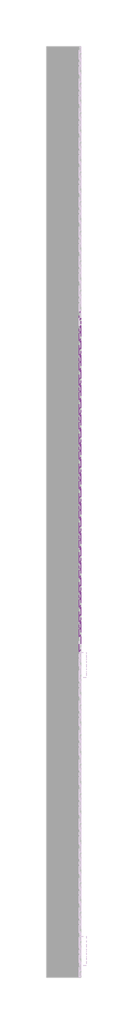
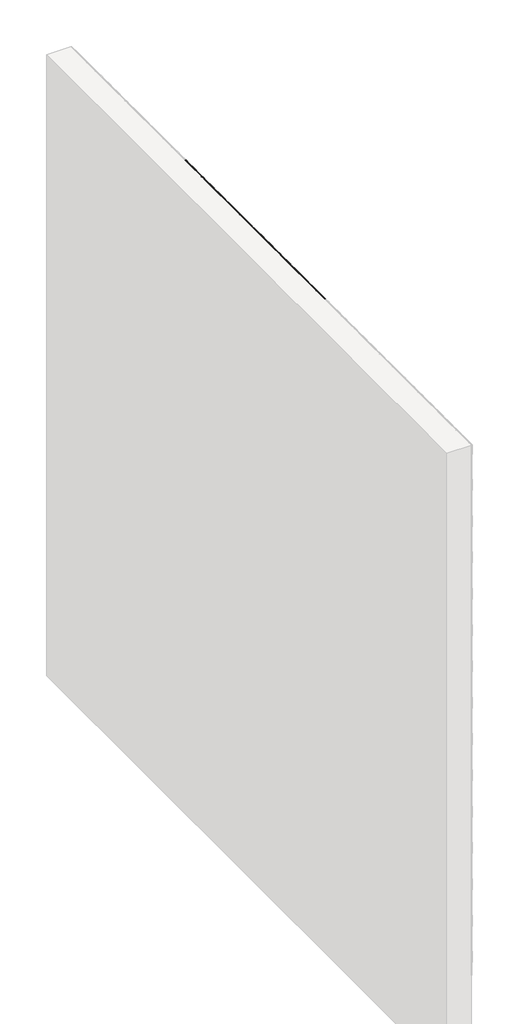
# One storey, part 41 of 121: 128 proxies.
"""IFC4 building model written with IfcOpenShell, lengths in millimetres."""

from ifc_helpers import new_model, si_unit, origin, place, context, project, spatial, transform, mapped, element, save
from components import generic_models_b2b2c5c1, generic_models_9bf73f6f, generic_models_5d175859, generic_models_65d4feed, generic_models_3c364290, generic_models_b652511d

model = new_model("IFC4")

# Units and contexts
model_context = context("Model", 3, world=origin())
ifc_project = project(units=[si_unit("LENGTHUNIT", "METRE", prefix="MILLI")], contexts=[model_context])

# Site, building, storey
site = spatial("IfcSite", under=ifc_project)
building = spatial("IfcBuilding", under=site)
storey = spatial("IfcBuildingStorey", under=building, Name="PORTOBELLO - SHOWROOM", Elevation=0.0)

# Proxies
placement = place(None, origin())
generic_models_shape = generic_models_b2b2c5c1(model_context)
element("IfcBuildingElementProxy", 1, Name="PBSHOP - CUBICA AZUL KLEIN 4,8X8,3 : CUBICA AZUL KLEIN - POSIÇÃO 01", ObjectType="PBSHOP - CUBICA AZUL KLEIN 4,8X8,3 : CUBICA AZUL KLEIN - POSIÇÃO 01", at=placement, inside=storey, context=model_context, shape_type="MappedRepresentation", body=[
    mapped(generic_models_shape, transform((150369.5341846, 1222.8778804, 2486.3959564), x_axis=(0.0, 1.0, 0.0), y_axis=(0.0, 0.0, 1.0), z_axis=(1.0, 0.0, 0.0))),
])
element("IfcBuildingElementProxy", 2, Name="PBSHOP - CUBICA AZUL KLEIN 4,8X8,3 : CUBICA AZUL KLEIN - POSIÇÃO 01", ObjectType="PBSHOP - CUBICA AZUL KLEIN 4,8X8,3 : CUBICA AZUL KLEIN - POSIÇÃO 01", at=placement, inside=storey, context=model_context, shape_type="MappedRepresentation", body=[
    mapped(generic_models_shape, transform((150369.5341846, 1313.7171496, 2486.3959564), x_axis=(0.0, 1.0, 0.0), y_axis=(0.0, 0.0, 1.0), z_axis=(1.0, 0.0, 0.0))),
])
element("IfcBuildingElementProxy", 3, Name="PBSHOP - CUBICA AZUL KLEIN 4,8X8,3 : CUBICA AZUL KLEIN - POSIÇÃO 01", ObjectType="PBSHOP - CUBICA AZUL KLEIN 4,8X8,3 : CUBICA AZUL KLEIN - POSIÇÃO 01", at=placement, inside=storey, context=model_context, shape_type="MappedRepresentation", body=[
    mapped(generic_models_shape, transform((150369.5341846, 1404.5564189, 2486.3959564), x_axis=(0.0, 1.0, 0.0), y_axis=(0.0, 0.0, 1.0), z_axis=(1.0, 0.0, 0.0))),
])
element("IfcBuildingElementProxy", 4, Name="PBSHOP - CUBICA AZUL KLEIN 4,8X8,3 : CUBICA AZUL KLEIN - POSIÇÃO 01", ObjectType="PBSHOP - CUBICA AZUL KLEIN 4,8X8,3 : CUBICA AZUL KLEIN - POSIÇÃO 01", at=placement, inside=storey, context=model_context, shape_type="MappedRepresentation", body=[
    mapped(generic_models_shape, transform((150369.5341846, 1495.3956881, 2486.3959564), x_axis=(0.0, 1.0, 0.0), y_axis=(0.0, 0.0, 1.0), z_axis=(1.0, 0.0, 0.0))),
])
element("IfcBuildingElementProxy", 5, Name="PBSHOP - CUBICA AZUL KLEIN 4,8X8,3 : CUBICA AZUL KLEIN - POSIÇÃO 01", ObjectType="PBSHOP - CUBICA AZUL KLEIN 4,8X8,3 : CUBICA AZUL KLEIN - POSIÇÃO 01", at=placement, inside=storey, context=model_context, shape_type="MappedRepresentation", body=[
    mapped(generic_models_shape, transform((150369.5341846, 1586.2349573, 2486.3959564), x_axis=(0.0, 1.0, 0.0), y_axis=(0.0, 0.0, 1.0), z_axis=(1.0, 0.0, 0.0))),
])
element("IfcBuildingElementProxy", 6, Name="PBSHOP - CUBICA AZUL KLEIN 4,8X8,3 : CUBICA AZUL KLEIN - POSIÇÃO 01", ObjectType="PBSHOP - CUBICA AZUL KLEIN 4,8X8,3 : CUBICA AZUL KLEIN - POSIÇÃO 01", at=placement, inside=storey, context=model_context, shape_type="MappedRepresentation", body=[
    mapped(generic_models_shape, transform((150369.5341846, 1677.0742266, 2486.3959564), x_axis=(0.0, 1.0, 0.0), y_axis=(0.0, 0.0, 1.0), z_axis=(1.0, 0.0, 0.0))),
])
element("IfcBuildingElementProxy", 7, Name="PBSHOP - CUBICA AZUL KLEIN 4,8X8,3 : CUBICA AZUL KLEIN - POSIÇÃO 01", ObjectType="PBSHOP - CUBICA AZUL KLEIN 4,8X8,3 : CUBICA AZUL KLEIN - POSIÇÃO 01", at=placement, inside=storey, context=model_context, shape_type="MappedRepresentation", body=[
    mapped(generic_models_shape, transform((150369.5341846, 1767.9134958, 2486.3959564), x_axis=(0.0, 1.0, 0.0), y_axis=(0.0, 0.0, 1.0), z_axis=(1.0, 0.0, 0.0))),
])
element("IfcBuildingElementProxy", 8, Name="PBSHOP - CUBICA AZUL KLEIN 4,8X8,3 : CUBICA AZUL KLEIN - POSIÇÃO 01", ObjectType="PBSHOP - CUBICA AZUL KLEIN 4,8X8,3 : CUBICA AZUL KLEIN - POSIÇÃO 01", at=placement, inside=storey, context=model_context, shape_type="MappedRepresentation", body=[
    mapped(generic_models_shape, transform((150369.5341846, 1858.7527651, 2486.3959564), x_axis=(0.0, 1.0, 0.0), y_axis=(0.0, 0.0, 1.0), z_axis=(1.0, 0.0, 0.0))),
])
element("IfcBuildingElementProxy", 9, Name="PBSHOP - CUBICA AZUL KLEIN 4,8X8,3 : CUBICA AZUL KLEIN - POSIÇÃO 01", ObjectType="PBSHOP - CUBICA AZUL KLEIN 4,8X8,3 : CUBICA AZUL KLEIN - POSIÇÃO 01", at=placement, inside=storey, context=model_context, shape_type="MappedRepresentation", body=[
    mapped(generic_models_shape, transform((150369.5341846, 1949.5920343, 2486.3959564), x_axis=(0.0, 1.0, 0.0), y_axis=(0.0, 0.0, 1.0), z_axis=(1.0, 0.0, 0.0))),
])
element("IfcBuildingElementProxy", 10, Name="PBSHOP - CUBICA AZUL KLEIN 4,8X8,3 : CUBICA AZUL KLEIN - POSIÇÃO 01", ObjectType="PBSHOP - CUBICA AZUL KLEIN 4,8X8,3 : CUBICA AZUL KLEIN - POSIÇÃO 01", at=placement, inside=storey, context=model_context, shape_type="MappedRepresentation", body=[
    mapped(generic_models_shape, transform((150369.5341846, 1086.6189765, 2565.3305948), x_axis=(0.0, 1.0, 0.0), y_axis=(0.0, 0.0, 1.0), z_axis=(1.0, 0.0, 0.0))),
])
element("IfcBuildingElementProxy", 11, Name="PBSHOP - CUBICA AZUL KLEIN 4,8X8,3 : CUBICA AZUL KLEIN - POSIÇÃO 01", ObjectType="PBSHOP - CUBICA AZUL KLEIN 4,8X8,3 : CUBICA AZUL KLEIN - POSIÇÃO 01", at=placement, inside=storey, context=model_context, shape_type="MappedRepresentation", body=[
    mapped(generic_models_shape, transform((150369.5341846, 1177.4582457, 2565.3305948), x_axis=(0.0, 1.0, 0.0), y_axis=(0.0, 0.0, 1.0), z_axis=(1.0, 0.0, 0.0))),
])
element("IfcBuildingElementProxy", 12, Name="PBSHOP - CUBICA AZUL KLEIN 4,8X8,3 : CUBICA AZUL KLEIN - POSIÇÃO 01", ObjectType="PBSHOP - CUBICA AZUL KLEIN 4,8X8,3 : CUBICA AZUL KLEIN - POSIÇÃO 01", at=placement, inside=storey, context=model_context, shape_type="MappedRepresentation", body=[
    mapped(generic_models_shape, transform((150369.5341846, 1268.297515, 2565.3305948), x_axis=(0.0, 1.0, 0.0), y_axis=(0.0, 0.0, 1.0), z_axis=(1.0, 0.0, 0.0))),
])
element("IfcBuildingElementProxy", 13, Name="PBSHOP - CUBICA AZUL KLEIN 4,8X8,3 : CUBICA AZUL KLEIN - POSIÇÃO 01", ObjectType="PBSHOP - CUBICA AZUL KLEIN 4,8X8,3 : CUBICA AZUL KLEIN - POSIÇÃO 01", at=placement, inside=storey, context=model_context, shape_type="MappedRepresentation", body=[
    mapped(generic_models_shape, transform((150369.5341846, 1359.1367842, 2565.3305948), x_axis=(0.0, 1.0, 0.0), y_axis=(0.0, 0.0, 1.0), z_axis=(1.0, 0.0, 0.0))),
])
element("IfcBuildingElementProxy", 14, Name="PBSHOP - CUBICA AZUL KLEIN 4,8X8,3 : CUBICA AZUL KLEIN - POSIÇÃO 01", ObjectType="PBSHOP - CUBICA AZUL KLEIN 4,8X8,3 : CUBICA AZUL KLEIN - POSIÇÃO 01", at=placement, inside=storey, context=model_context, shape_type="MappedRepresentation", body=[
    mapped(generic_models_shape, transform((150369.5341846, 1449.9760535, 2565.3305948), x_axis=(0.0, 1.0, 0.0), y_axis=(0.0, 0.0, 1.0), z_axis=(1.0, 0.0, 0.0))),
])
element("IfcBuildingElementProxy", 15, Name="PBSHOP - CUBICA AZUL KLEIN 4,8X8,3 : CUBICA AZUL KLEIN - POSIÇÃO 01", ObjectType="PBSHOP - CUBICA AZUL KLEIN 4,8X8,3 : CUBICA AZUL KLEIN - POSIÇÃO 01", at=placement, inside=storey, context=model_context, shape_type="MappedRepresentation", body=[
    mapped(generic_models_shape, transform((150369.5341846, 1540.8153227, 2565.3305948), x_axis=(0.0, 1.0, 0.0), y_axis=(0.0, 0.0, 1.0), z_axis=(1.0, 0.0, 0.0))),
])
element("IfcBuildingElementProxy", 16, Name="PBSHOP - CUBICA AZUL KLEIN 4,8X8,3 : CUBICA AZUL KLEIN - POSIÇÃO 01", ObjectType="PBSHOP - CUBICA AZUL KLEIN 4,8X8,3 : CUBICA AZUL KLEIN - POSIÇÃO 01", at=placement, inside=storey, context=model_context, shape_type="MappedRepresentation", body=[
    mapped(generic_models_shape, transform((150369.5341846, 1631.654592, 2565.3305948), x_axis=(0.0, 1.0, 0.0), y_axis=(0.0, 0.0, 1.0), z_axis=(1.0, 0.0, 0.0))),
])
element("IfcBuildingElementProxy", 17, Name="PBSHOP - CUBICA AZUL KLEIN 4,8X8,3 : CUBICA AZUL KLEIN - POSIÇÃO 01", ObjectType="PBSHOP - CUBICA AZUL KLEIN 4,8X8,3 : CUBICA AZUL KLEIN - POSIÇÃO 01", at=placement, inside=storey, context=model_context, shape_type="MappedRepresentation", body=[
    mapped(generic_models_shape, transform((150369.5341846, 1722.4938612, 2565.3305948), x_axis=(0.0, 1.0, 0.0), y_axis=(0.0, 0.0, 1.0), z_axis=(1.0, 0.0, 0.0))),
])
element("IfcBuildingElementProxy", 18, Name="PBSHOP - CUBICA AZUL KLEIN 4,8X8,3 : CUBICA AZUL KLEIN - POSIÇÃO 01", ObjectType="PBSHOP - CUBICA AZUL KLEIN 4,8X8,3 : CUBICA AZUL KLEIN - POSIÇÃO 01", at=placement, inside=storey, context=model_context, shape_type="MappedRepresentation", body=[
    mapped(generic_models_shape, transform((150369.5341846, 1813.3331304, 2565.3305948), x_axis=(0.0, 1.0, 0.0), y_axis=(0.0, 0.0, 1.0), z_axis=(1.0, 0.0, 0.0))),
])
element("IfcBuildingElementProxy", 19, Name="PBSHOP - CUBICA AZUL KLEIN 4,8X8,3 : CUBICA AZUL KLEIN - POSIÇÃO 01", ObjectType="PBSHOP - CUBICA AZUL KLEIN 4,8X8,3 : CUBICA AZUL KLEIN - POSIÇÃO 01", at=placement, inside=storey, context=model_context, shape_type="MappedRepresentation", body=[
    mapped(generic_models_shape, transform((150369.5341846, 1904.1723997, 2565.3305948), x_axis=(0.0, 1.0, 0.0), y_axis=(0.0, 0.0, 1.0), z_axis=(1.0, 0.0, 0.0))),
])
element("IfcBuildingElementProxy", 20, Name="PBSHOP - CUBICA AZUL KLEIN 4,8X8,3 : CUBICA AZUL KLEIN - POSIÇÃO 01", ObjectType="PBSHOP - CUBICA AZUL KLEIN 4,8X8,3 : CUBICA AZUL KLEIN - POSIÇÃO 01", at=placement, inside=storey, context=model_context, shape_type="MappedRepresentation", body=[
    mapped(generic_models_shape, transform((150369.5341846, 1995.0116689, 2565.3305948), x_axis=(0.0, 1.0, 0.0), y_axis=(0.0, 0.0, 1.0), z_axis=(1.0, 0.0, 0.0))),
])
element("IfcBuildingElementProxy", 21, Name="PBSHOP - CUBICA AZUL KLEIN 4,8X8,3 : CUBICA AZUL KLEIN - POSIÇÃO 01", ObjectType="PBSHOP - CUBICA AZUL KLEIN 4,8X8,3 : CUBICA AZUL KLEIN - POSIÇÃO 01", at=placement, inside=storey, context=model_context, shape_type="MappedRepresentation", body=[
    mapped(generic_models_shape, transform((150369.5341846, 1041.1993419, 2644.2652332), x_axis=(0.0, 1.0, 0.0), y_axis=(0.0, 0.0, 1.0), z_axis=(1.0, 0.0, 0.0))),
])
element("IfcBuildingElementProxy", 22, Name="PBSHOP - CUBICA AZUL KLEIN 4,8X8,3 : CUBICA AZUL KLEIN - POSIÇÃO 01", ObjectType="PBSHOP - CUBICA AZUL KLEIN 4,8X8,3 : CUBICA AZUL KLEIN - POSIÇÃO 01", at=placement, inside=storey, context=model_context, shape_type="MappedRepresentation", body=[
    mapped(generic_models_shape, transform((150369.5341846, 1132.0386111, 2644.2652332), x_axis=(0.0, 1.0, 0.0), y_axis=(0.0, 0.0, 1.0), z_axis=(1.0, 0.0, 0.0))),
])
element("IfcBuildingElementProxy", 23, Name="PBSHOP - CUBICA AZUL KLEIN 4,8X8,3 : CUBICA AZUL KLEIN - POSIÇÃO 01", ObjectType="PBSHOP - CUBICA AZUL KLEIN 4,8X8,3 : CUBICA AZUL KLEIN - POSIÇÃO 01", at=placement, inside=storey, context=model_context, shape_type="MappedRepresentation", body=[
    mapped(generic_models_shape, transform((150369.5341846, 1222.8778804, 2644.2652332), x_axis=(0.0, 1.0, 0.0), y_axis=(0.0, 0.0, 1.0), z_axis=(1.0, 0.0, 0.0))),
])
element("IfcBuildingElementProxy", 24, Name="PBSHOP - CUBICA AZUL KLEIN 4,8X8,3 : CUBICA AZUL KLEIN - POSIÇÃO 01", ObjectType="PBSHOP - CUBICA AZUL KLEIN 4,8X8,3 : CUBICA AZUL KLEIN - POSIÇÃO 01", at=placement, inside=storey, context=model_context, shape_type="MappedRepresentation", body=[
    mapped(generic_models_shape, transform((150369.5341846, 1313.7171496, 2644.2652332), x_axis=(0.0, 1.0, 0.0), y_axis=(0.0, 0.0, 1.0), z_axis=(1.0, 0.0, 0.0))),
])
element("IfcBuildingElementProxy", 25, Name="PBSHOP - CUBICA AZUL KLEIN 4,8X8,3 : CUBICA AZUL KLEIN - POSIÇÃO 01", ObjectType="PBSHOP - CUBICA AZUL KLEIN 4,8X8,3 : CUBICA AZUL KLEIN - POSIÇÃO 01", at=placement, inside=storey, context=model_context, shape_type="MappedRepresentation", body=[
    mapped(generic_models_shape, transform((150369.5341846, 1404.5564189, 2644.2652332), x_axis=(0.0, 1.0, 0.0), y_axis=(0.0, 0.0, 1.0), z_axis=(1.0, 0.0, 0.0))),
])
element("IfcBuildingElementProxy", 26, Name="PBSHOP - CUBICA AZUL KLEIN 4,8X8,3 : CUBICA AZUL KLEIN - POSIÇÃO 01", ObjectType="PBSHOP - CUBICA AZUL KLEIN 4,8X8,3 : CUBICA AZUL KLEIN - POSIÇÃO 01", at=placement, inside=storey, context=model_context, shape_type="MappedRepresentation", body=[
    mapped(generic_models_shape, transform((150369.5341846, 1495.3956881, 2644.2652332), x_axis=(0.0, 1.0, 0.0), y_axis=(0.0, 0.0, 1.0), z_axis=(1.0, 0.0, 0.0))),
])
element("IfcBuildingElementProxy", 27, Name="PBSHOP - CUBICA AZUL KLEIN 4,8X8,3 : CUBICA AZUL KLEIN - POSIÇÃO 01", ObjectType="PBSHOP - CUBICA AZUL KLEIN 4,8X8,3 : CUBICA AZUL KLEIN - POSIÇÃO 01", at=placement, inside=storey, context=model_context, shape_type="MappedRepresentation", body=[
    mapped(generic_models_shape, transform((150369.5341846, 1586.2349573, 2644.2652332), x_axis=(0.0, 1.0, 0.0), y_axis=(0.0, 0.0, 1.0), z_axis=(1.0, 0.0, 0.0))),
])
element("IfcBuildingElementProxy", 28, Name="PBSHOP - CUBICA AZUL KLEIN 4,8X8,3 : CUBICA AZUL KLEIN - POSIÇÃO 01", ObjectType="PBSHOP - CUBICA AZUL KLEIN 4,8X8,3 : CUBICA AZUL KLEIN - POSIÇÃO 01", at=placement, inside=storey, context=model_context, shape_type="MappedRepresentation", body=[
    mapped(generic_models_shape, transform((150369.5341846, 1677.0742266, 2644.2652332), x_axis=(0.0, 1.0, 0.0), y_axis=(0.0, 0.0, 1.0), z_axis=(1.0, 0.0, 0.0))),
])
element("IfcBuildingElementProxy", 29, Name="PBSHOP - CUBICA AZUL KLEIN 4,8X8,3 : CUBICA AZUL KLEIN - POSIÇÃO 01", ObjectType="PBSHOP - CUBICA AZUL KLEIN 4,8X8,3 : CUBICA AZUL KLEIN - POSIÇÃO 01", at=placement, inside=storey, context=model_context, shape_type="MappedRepresentation", body=[
    mapped(generic_models_shape, transform((150369.5341846, 1767.9134958, 2644.2652332), x_axis=(0.0, 1.0, 0.0), y_axis=(0.0, 0.0, 1.0), z_axis=(1.0, 0.0, 0.0))),
])
element("IfcBuildingElementProxy", 30, Name="PBSHOP - CUBICA AZUL KLEIN 4,8X8,3 : CUBICA AZUL KLEIN - POSIÇÃO 01", ObjectType="PBSHOP - CUBICA AZUL KLEIN 4,8X8,3 : CUBICA AZUL KLEIN - POSIÇÃO 01", at=placement, inside=storey, context=model_context, shape_type="MappedRepresentation", body=[
    mapped(generic_models_shape, transform((150369.5341846, 1858.7527651, 2644.2652332), x_axis=(0.0, 1.0, 0.0), y_axis=(0.0, 0.0, 1.0), z_axis=(1.0, 0.0, 0.0))),
])
element("IfcBuildingElementProxy", 31, Name="PBSHOP - CUBICA AZUL KLEIN 4,8X8,3 : CUBICA AZUL KLEIN - POSIÇÃO 01", ObjectType="PBSHOP - CUBICA AZUL KLEIN 4,8X8,3 : CUBICA AZUL KLEIN - POSIÇÃO 01", at=placement, inside=storey, context=model_context, shape_type="MappedRepresentation", body=[
    mapped(generic_models_shape, transform((150369.5341846, 1949.5920343, 2644.2652332), x_axis=(0.0, 1.0, 0.0), y_axis=(0.0, 0.0, 1.0), z_axis=(1.0, 0.0, 0.0))),
])
generic_models_2_shape = generic_models_9bf73f6f(model_context)
element("IfcBuildingElementProxy", 32, Name="PBSHOP - CUBICA AZUL KLEIN 4,8X8,3 : CUBICA AZUL KLEIN - POSIÇÃO 03", ObjectType="PBSHOP - CUBICA AZUL KLEIN 4,8X8,3 : CUBICA AZUL KLEIN - POSIÇÃO 03", at=placement, inside=storey, context=model_context, shape_type="MappedRepresentation", body=[
    mapped(generic_models_2_shape, transform((150369.5341846, 1018.4916837, 2446.8874268), x_axis=(0.0, 1.0, 0.0), y_axis=(0.0, 0.0, 1.0), z_axis=(1.0, 0.0, 0.0))),
])
element("IfcBuildingElementProxy", 33, Name="PBSHOP - CUBICA AZUL KLEIN 4,8X8,3 : CUBICA AZUL KLEIN - POSIÇÃO 03", ObjectType="PBSHOP - CUBICA AZUL KLEIN 4,8X8,3 : CUBICA AZUL KLEIN - POSIÇÃO 03", at=placement, inside=storey, context=model_context, shape_type="MappedRepresentation", body=[
    mapped(generic_models_2_shape, transform((150369.5341846, 1109.330953, 2446.8874268), x_axis=(0.0, 1.0, 0.0), y_axis=(0.0, 0.0, 1.0), z_axis=(1.0, 0.0, 0.0))),
])
element("IfcBuildingElementProxy", 34, Name="PBSHOP - CUBICA AZUL KLEIN 4,8X8,3 : CUBICA AZUL KLEIN - POSIÇÃO 03", ObjectType="PBSHOP - CUBICA AZUL KLEIN 4,8X8,3 : CUBICA AZUL KLEIN - POSIÇÃO 03", at=placement, inside=storey, context=model_context, shape_type="MappedRepresentation", body=[
    mapped(generic_models_2_shape, transform((150369.5341846, 1200.1702222, 2446.8874268), x_axis=(0.0, 1.0, 0.0), y_axis=(0.0, 0.0, 1.0), z_axis=(1.0, 0.0, 0.0))),
])
element("IfcBuildingElementProxy", 35, Name="PBSHOP - CUBICA AZUL KLEIN 4,8X8,3 : CUBICA AZUL KLEIN - POSIÇÃO 03", ObjectType="PBSHOP - CUBICA AZUL KLEIN 4,8X8,3 : CUBICA AZUL KLEIN - POSIÇÃO 03", at=placement, inside=storey, context=model_context, shape_type="MappedRepresentation", body=[
    mapped(generic_models_2_shape, transform((150369.5341846, 1291.0094915, 2446.8874268), x_axis=(0.0, 1.0, 0.0), y_axis=(0.0, 0.0, 1.0), z_axis=(1.0, 0.0, 0.0))),
])
element("IfcBuildingElementProxy", 36, Name="PBSHOP - CUBICA AZUL KLEIN 4,8X8,3 : CUBICA AZUL KLEIN - POSIÇÃO 03", ObjectType="PBSHOP - CUBICA AZUL KLEIN 4,8X8,3 : CUBICA AZUL KLEIN - POSIÇÃO 03", at=placement, inside=storey, context=model_context, shape_type="MappedRepresentation", body=[
    mapped(generic_models_2_shape, transform((150369.5341846, 1381.8487607, 2446.8874268), x_axis=(0.0, 1.0, 0.0), y_axis=(0.0, 0.0, 1.0), z_axis=(1.0, 0.0, 0.0))),
])
element("IfcBuildingElementProxy", 37, Name="PBSHOP - CUBICA AZUL KLEIN 4,8X8,3 : CUBICA AZUL KLEIN - POSIÇÃO 03", ObjectType="PBSHOP - CUBICA AZUL KLEIN 4,8X8,3 : CUBICA AZUL KLEIN - POSIÇÃO 03", at=placement, inside=storey, context=model_context, shape_type="MappedRepresentation", body=[
    mapped(generic_models_2_shape, transform((150369.5341846, 1472.6880299, 2446.8874268), x_axis=(0.0, 1.0, 0.0), y_axis=(0.0, 0.0, 1.0), z_axis=(1.0, 0.0, 0.0))),
])
element("IfcBuildingElementProxy", 38, Name="PBSHOP - CUBICA AZUL KLEIN 4,8X8,3 : CUBICA AZUL KLEIN - POSIÇÃO 03", ObjectType="PBSHOP - CUBICA AZUL KLEIN 4,8X8,3 : CUBICA AZUL KLEIN - POSIÇÃO 03", at=placement, inside=storey, context=model_context, shape_type="MappedRepresentation", body=[
    mapped(generic_models_2_shape, transform((150369.5341846, 1563.5272992, 2446.8874268), x_axis=(0.0, 1.0, 0.0), y_axis=(0.0, 0.0, 1.0), z_axis=(1.0, 0.0, 0.0))),
])
element("IfcBuildingElementProxy", 39, Name="PBSHOP - CUBICA AZUL KLEIN 4,8X8,3 : CUBICA AZUL KLEIN - POSIÇÃO 03", ObjectType="PBSHOP - CUBICA AZUL KLEIN 4,8X8,3 : CUBICA AZUL KLEIN - POSIÇÃO 03", at=placement, inside=storey, context=model_context, shape_type="MappedRepresentation", body=[
    mapped(generic_models_2_shape, transform((150369.5341846, 1654.3665684, 2446.8874268), x_axis=(0.0, 1.0, 0.0), y_axis=(0.0, 0.0, 1.0), z_axis=(1.0, 0.0, 0.0))),
])
element("IfcBuildingElementProxy", 40, Name="PBSHOP - CUBICA AZUL KLEIN 4,8X8,3 : CUBICA AZUL KLEIN - POSIÇÃO 03", ObjectType="PBSHOP - CUBICA AZUL KLEIN 4,8X8,3 : CUBICA AZUL KLEIN - POSIÇÃO 03", at=placement, inside=storey, context=model_context, shape_type="MappedRepresentation", body=[
    mapped(generic_models_2_shape, transform((150369.5341846, 1745.2058377, 2446.8874268), x_axis=(0.0, 1.0, 0.0), y_axis=(0.0, 0.0, 1.0), z_axis=(1.0, 0.0, 0.0))),
])
element("IfcBuildingElementProxy", 41, Name="PBSHOP - CUBICA AZUL KLEIN 4,8X8,3 : CUBICA AZUL KLEIN - POSIÇÃO 03", ObjectType="PBSHOP - CUBICA AZUL KLEIN 4,8X8,3 : CUBICA AZUL KLEIN - POSIÇÃO 03", at=placement, inside=storey, context=model_context, shape_type="MappedRepresentation", body=[
    mapped(generic_models_2_shape, transform((150369.5341846, 1836.0451069, 2446.8874268), x_axis=(0.0, 1.0, 0.0), y_axis=(0.0, 0.0, 1.0), z_axis=(1.0, 0.0, 0.0))),
])
element("IfcBuildingElementProxy", 42, Name="PBSHOP - CUBICA AZUL KLEIN 4,8X8,3 : CUBICA AZUL KLEIN - POSIÇÃO 03", ObjectType="PBSHOP - CUBICA AZUL KLEIN 4,8X8,3 : CUBICA AZUL KLEIN - POSIÇÃO 03", at=placement, inside=storey, context=model_context, shape_type="MappedRepresentation", body=[
    mapped(generic_models_2_shape, transform((150369.5341846, 1926.8843762, 2446.8874268), x_axis=(0.0, 1.0, 0.0), y_axis=(0.0, 0.0, 1.0), z_axis=(1.0, 0.0, 0.0))),
])
element("IfcBuildingElementProxy", 43, Name="PBSHOP - CUBICA AZUL KLEIN 4,8X8,3 : CUBICA AZUL KLEIN - POSIÇÃO 03", ObjectType="PBSHOP - CUBICA AZUL KLEIN 4,8X8,3 : CUBICA AZUL KLEIN - POSIÇÃO 03", at=placement, inside=storey, context=model_context, shape_type="MappedRepresentation", body=[
    mapped(generic_models_2_shape, transform((150369.5341846, 1063.9113184, 2525.8220652), x_axis=(0.0, 1.0, 0.0), y_axis=(0.0, 0.0, 1.0), z_axis=(1.0, 0.0, 0.0))),
])
element("IfcBuildingElementProxy", 44, Name="PBSHOP - CUBICA AZUL KLEIN 4,8X8,3 : CUBICA AZUL KLEIN - POSIÇÃO 03", ObjectType="PBSHOP - CUBICA AZUL KLEIN 4,8X8,3 : CUBICA AZUL KLEIN - POSIÇÃO 03", at=placement, inside=storey, context=model_context, shape_type="MappedRepresentation", body=[
    mapped(generic_models_2_shape, transform((150369.5341846, 1154.7505876, 2525.8220652), x_axis=(0.0, 1.0, 0.0), y_axis=(0.0, 0.0, 1.0), z_axis=(1.0, 0.0, 0.0))),
])
element("IfcBuildingElementProxy", 45, Name="PBSHOP - CUBICA AZUL KLEIN 4,8X8,3 : CUBICA AZUL KLEIN - POSIÇÃO 03", ObjectType="PBSHOP - CUBICA AZUL KLEIN 4,8X8,3 : CUBICA AZUL KLEIN - POSIÇÃO 03", at=placement, inside=storey, context=model_context, shape_type="MappedRepresentation", body=[
    mapped(generic_models_2_shape, transform((150369.5341846, 1245.5898568, 2525.8220652), x_axis=(0.0, 1.0, 0.0), y_axis=(0.0, 0.0, 1.0), z_axis=(1.0, 0.0, 0.0))),
])
element("IfcBuildingElementProxy", 46, Name="PBSHOP - CUBICA AZUL KLEIN 4,8X8,3 : CUBICA AZUL KLEIN - POSIÇÃO 03", ObjectType="PBSHOP - CUBICA AZUL KLEIN 4,8X8,3 : CUBICA AZUL KLEIN - POSIÇÃO 03", at=placement, inside=storey, context=model_context, shape_type="MappedRepresentation", body=[
    mapped(generic_models_2_shape, transform((150369.5341846, 1336.4291261, 2525.8220652), x_axis=(0.0, 1.0, 0.0), y_axis=(0.0, 0.0, 1.0), z_axis=(1.0, 0.0, 0.0))),
])
element("IfcBuildingElementProxy", 47, Name="PBSHOP - CUBICA AZUL KLEIN 4,8X8,3 : CUBICA AZUL KLEIN - POSIÇÃO 03", ObjectType="PBSHOP - CUBICA AZUL KLEIN 4,8X8,3 : CUBICA AZUL KLEIN - POSIÇÃO 03", at=placement, inside=storey, context=model_context, shape_type="MappedRepresentation", body=[
    mapped(generic_models_2_shape, transform((150369.5341846, 1427.2683953, 2525.8220652), x_axis=(0.0, 1.0, 0.0), y_axis=(0.0, 0.0, 1.0), z_axis=(1.0, 0.0, 0.0))),
])
element("IfcBuildingElementProxy", 48, Name="PBSHOP - CUBICA AZUL KLEIN 4,8X8,3 : CUBICA AZUL KLEIN - POSIÇÃO 03", ObjectType="PBSHOP - CUBICA AZUL KLEIN 4,8X8,3 : CUBICA AZUL KLEIN - POSIÇÃO 03", at=placement, inside=storey, context=model_context, shape_type="MappedRepresentation", body=[
    mapped(generic_models_2_shape, transform((150369.5341846, 1518.1076646, 2525.8220652), x_axis=(0.0, 1.0, 0.0), y_axis=(0.0, 0.0, 1.0), z_axis=(1.0, 0.0, 0.0))),
])
element("IfcBuildingElementProxy", 49, Name="PBSHOP - CUBICA AZUL KLEIN 4,8X8,3 : CUBICA AZUL KLEIN - POSIÇÃO 03", ObjectType="PBSHOP - CUBICA AZUL KLEIN 4,8X8,3 : CUBICA AZUL KLEIN - POSIÇÃO 03", at=placement, inside=storey, context=model_context, shape_type="MappedRepresentation", body=[
    mapped(generic_models_2_shape, transform((150369.5341846, 1608.9469338, 2525.8220652), x_axis=(0.0, 1.0, 0.0), y_axis=(0.0, 0.0, 1.0), z_axis=(1.0, 0.0, 0.0))),
])
element("IfcBuildingElementProxy", 50, Name="PBSHOP - CUBICA AZUL KLEIN 4,8X8,3 : CUBICA AZUL KLEIN - POSIÇÃO 03", ObjectType="PBSHOP - CUBICA AZUL KLEIN 4,8X8,3 : CUBICA AZUL KLEIN - POSIÇÃO 03", at=placement, inside=storey, context=model_context, shape_type="MappedRepresentation", body=[
    mapped(generic_models_2_shape, transform((150369.5341846, 1699.7862031, 2525.8220652), x_axis=(0.0, 1.0, 0.0), y_axis=(0.0, 0.0, 1.0), z_axis=(1.0, 0.0, 0.0))),
])
element("IfcBuildingElementProxy", 51, Name="PBSHOP - CUBICA AZUL KLEIN 4,8X8,3 : CUBICA AZUL KLEIN - POSIÇÃO 03", ObjectType="PBSHOP - CUBICA AZUL KLEIN 4,8X8,3 : CUBICA AZUL KLEIN - POSIÇÃO 03", at=placement, inside=storey, context=model_context, shape_type="MappedRepresentation", body=[
    mapped(generic_models_2_shape, transform((150369.5341846, 1790.6254723, 2525.8220652), x_axis=(0.0, 1.0, 0.0), y_axis=(0.0, 0.0, 1.0), z_axis=(1.0, 0.0, 0.0))),
])
element("IfcBuildingElementProxy", 52, Name="PBSHOP - CUBICA AZUL KLEIN 4,8X8,3 : CUBICA AZUL KLEIN - POSIÇÃO 03", ObjectType="PBSHOP - CUBICA AZUL KLEIN 4,8X8,3 : CUBICA AZUL KLEIN - POSIÇÃO 03", at=placement, inside=storey, context=model_context, shape_type="MappedRepresentation", body=[
    mapped(generic_models_2_shape, transform((150369.5341846, 1881.4647415, 2525.8220652), x_axis=(0.0, 1.0, 0.0), y_axis=(0.0, 0.0, 1.0), z_axis=(1.0, 0.0, 0.0))),
])
element("IfcBuildingElementProxy", 53, Name="PBSHOP - CUBICA AZUL KLEIN 4,8X8,3 : CUBICA AZUL KLEIN - POSIÇÃO 03", ObjectType="PBSHOP - CUBICA AZUL KLEIN 4,8X8,3 : CUBICA AZUL KLEIN - POSIÇÃO 03", at=placement, inside=storey, context=model_context, shape_type="MappedRepresentation", body=[
    mapped(generic_models_2_shape, transform((150369.5341846, 1972.3040108, 2525.8220652), x_axis=(0.0, 1.0, 0.0), y_axis=(0.0, 0.0, 1.0), z_axis=(1.0, 0.0, 0.0))),
])
element("IfcBuildingElementProxy", 54, Name="PBSHOP - CUBICA AZUL KLEIN 4,8X8,3 : CUBICA AZUL KLEIN - POSIÇÃO 03", ObjectType="PBSHOP - CUBICA AZUL KLEIN 4,8X8,3 : CUBICA AZUL KLEIN - POSIÇÃO 03", at=placement, inside=storey, context=model_context, shape_type="MappedRepresentation", body=[
    mapped(generic_models_2_shape, transform((150369.5341846, 1018.4916837, 2604.7567035), x_axis=(0.0, 1.0, 0.0), y_axis=(0.0, 0.0, 1.0), z_axis=(1.0, 0.0, 0.0))),
])
element("IfcBuildingElementProxy", 55, Name="PBSHOP - CUBICA AZUL KLEIN 4,8X8,3 : CUBICA AZUL KLEIN - POSIÇÃO 03", ObjectType="PBSHOP - CUBICA AZUL KLEIN 4,8X8,3 : CUBICA AZUL KLEIN - POSIÇÃO 03", at=placement, inside=storey, context=model_context, shape_type="MappedRepresentation", body=[
    mapped(generic_models_2_shape, transform((150369.5341846, 1109.330953, 2604.7567035), x_axis=(0.0, 1.0, 0.0), y_axis=(0.0, 0.0, 1.0), z_axis=(1.0, 0.0, 0.0))),
])
element("IfcBuildingElementProxy", 56, Name="PBSHOP - CUBICA AZUL KLEIN 4,8X8,3 : CUBICA AZUL KLEIN - POSIÇÃO 03", ObjectType="PBSHOP - CUBICA AZUL KLEIN 4,8X8,3 : CUBICA AZUL KLEIN - POSIÇÃO 03", at=placement, inside=storey, context=model_context, shape_type="MappedRepresentation", body=[
    mapped(generic_models_2_shape, transform((150369.5341846, 1200.1702222, 2604.7567035), x_axis=(0.0, 1.0, 0.0), y_axis=(0.0, 0.0, 1.0), z_axis=(1.0, 0.0, 0.0))),
])
element("IfcBuildingElementProxy", 57, Name="PBSHOP - CUBICA AZUL KLEIN 4,8X8,3 : CUBICA AZUL KLEIN - POSIÇÃO 03", ObjectType="PBSHOP - CUBICA AZUL KLEIN 4,8X8,3 : CUBICA AZUL KLEIN - POSIÇÃO 03", at=placement, inside=storey, context=model_context, shape_type="MappedRepresentation", body=[
    mapped(generic_models_2_shape, transform((150369.5341846, 1291.0094915, 2604.7567035), x_axis=(0.0, 1.0, 0.0), y_axis=(0.0, 0.0, 1.0), z_axis=(1.0, 0.0, 0.0))),
])
element("IfcBuildingElementProxy", 58, Name="PBSHOP - CUBICA AZUL KLEIN 4,8X8,3 : CUBICA AZUL KLEIN - POSIÇÃO 03", ObjectType="PBSHOP - CUBICA AZUL KLEIN 4,8X8,3 : CUBICA AZUL KLEIN - POSIÇÃO 03", at=placement, inside=storey, context=model_context, shape_type="MappedRepresentation", body=[
    mapped(generic_models_2_shape, transform((150369.5341846, 1381.8487607, 2604.7567035), x_axis=(0.0, 1.0, 0.0), y_axis=(0.0, 0.0, 1.0), z_axis=(1.0, 0.0, 0.0))),
])
element("IfcBuildingElementProxy", 59, Name="PBSHOP - CUBICA AZUL KLEIN 4,8X8,3 : CUBICA AZUL KLEIN - POSIÇÃO 03", ObjectType="PBSHOP - CUBICA AZUL KLEIN 4,8X8,3 : CUBICA AZUL KLEIN - POSIÇÃO 03", at=placement, inside=storey, context=model_context, shape_type="MappedRepresentation", body=[
    mapped(generic_models_2_shape, transform((150369.5341846, 1472.6880299, 2604.7567035), x_axis=(0.0, 1.0, 0.0), y_axis=(0.0, 0.0, 1.0), z_axis=(1.0, 0.0, 0.0))),
])
element("IfcBuildingElementProxy", 60, Name="PBSHOP - CUBICA AZUL KLEIN 4,8X8,3 : CUBICA AZUL KLEIN - POSIÇÃO 03", ObjectType="PBSHOP - CUBICA AZUL KLEIN 4,8X8,3 : CUBICA AZUL KLEIN - POSIÇÃO 03", at=placement, inside=storey, context=model_context, shape_type="MappedRepresentation", body=[
    mapped(generic_models_2_shape, transform((150369.5341846, 1563.5272992, 2604.7567035), x_axis=(0.0, 1.0, 0.0), y_axis=(0.0, 0.0, 1.0), z_axis=(1.0, 0.0, 0.0))),
])
element("IfcBuildingElementProxy", 61, Name="PBSHOP - CUBICA AZUL KLEIN 4,8X8,3 : CUBICA AZUL KLEIN - POSIÇÃO 03", ObjectType="PBSHOP - CUBICA AZUL KLEIN 4,8X8,3 : CUBICA AZUL KLEIN - POSIÇÃO 03", at=placement, inside=storey, context=model_context, shape_type="MappedRepresentation", body=[
    mapped(generic_models_2_shape, transform((150369.5341846, 1654.3665684, 2604.7567035), x_axis=(0.0, 1.0, 0.0), y_axis=(0.0, 0.0, 1.0), z_axis=(1.0, 0.0, 0.0))),
])
element("IfcBuildingElementProxy", 62, Name="PBSHOP - CUBICA AZUL KLEIN 4,8X8,3 : CUBICA AZUL KLEIN - POSIÇÃO 03", ObjectType="PBSHOP - CUBICA AZUL KLEIN 4,8X8,3 : CUBICA AZUL KLEIN - POSIÇÃO 03", at=placement, inside=storey, context=model_context, shape_type="MappedRepresentation", body=[
    mapped(generic_models_2_shape, transform((150369.5341846, 1745.2058377, 2604.7567035), x_axis=(0.0, 1.0, 0.0), y_axis=(0.0, 0.0, 1.0), z_axis=(1.0, 0.0, 0.0))),
])
element("IfcBuildingElementProxy", 63, Name="PBSHOP - CUBICA AZUL KLEIN 4,8X8,3 : CUBICA AZUL KLEIN - POSIÇÃO 03", ObjectType="PBSHOP - CUBICA AZUL KLEIN 4,8X8,3 : CUBICA AZUL KLEIN - POSIÇÃO 03", at=placement, inside=storey, context=model_context, shape_type="MappedRepresentation", body=[
    mapped(generic_models_2_shape, transform((150369.5341846, 1836.0451069, 2604.7567035), x_axis=(0.0, 1.0, 0.0), y_axis=(0.0, 0.0, 1.0), z_axis=(1.0, 0.0, 0.0))),
])
element("IfcBuildingElementProxy", 64, Name="PBSHOP - CUBICA AZUL KLEIN 4,8X8,3 : CUBICA AZUL KLEIN - POSIÇÃO 03", ObjectType="PBSHOP - CUBICA AZUL KLEIN 4,8X8,3 : CUBICA AZUL KLEIN - POSIÇÃO 03", at=placement, inside=storey, context=model_context, shape_type="MappedRepresentation", body=[
    mapped(generic_models_2_shape, transform((150369.5341846, 1926.8843762, 2604.7567035), x_axis=(0.0, 1.0, 0.0), y_axis=(0.0, 0.0, 1.0), z_axis=(1.0, 0.0, 0.0))),
])
generic_models_3_shape = generic_models_5d175859(model_context)
element("IfcBuildingElementProxy", 65, Name="PBSHOP - CUBICA AZUL KLEIN 4,8X8,3 : CUBICA AZUL KLEIN - POSIÇÃO 01", ObjectType="PBSHOP - CUBICA AZUL KLEIN 4,8X8,3 : CUBICA AZUL KLEIN - POSIÇÃO 01", at=placement, inside=storey, context=model_context, shape_type="MappedRepresentation", body=[
    mapped(generic_models_3_shape, transform((150369.5341846, 1268.3018333, 2486.3959564), x_axis=(0.0, -1.0, 0.0), y_axis=(0.0, 0.0, -1.0), z_axis=(1.0, 0.0, 0.0))),
])
element("IfcBuildingElementProxy", 66, Name="PBSHOP - CUBICA AZUL KLEIN 4,8X8,3 : CUBICA AZUL KLEIN - POSIÇÃO 01", ObjectType="PBSHOP - CUBICA AZUL KLEIN 4,8X8,3 : CUBICA AZUL KLEIN - POSIÇÃO 01", at=placement, inside=storey, context=model_context, shape_type="MappedRepresentation", body=[
    mapped(generic_models_3_shape, transform((150369.5341846, 1359.1411026, 2486.3959564), x_axis=(0.0, -1.0, 0.0), y_axis=(0.0, 0.0, -1.0), z_axis=(1.0, 0.0, 0.0))),
])
element("IfcBuildingElementProxy", 67, Name="PBSHOP - CUBICA AZUL KLEIN 4,8X8,3 : CUBICA AZUL KLEIN - POSIÇÃO 01", ObjectType="PBSHOP - CUBICA AZUL KLEIN 4,8X8,3 : CUBICA AZUL KLEIN - POSIÇÃO 01", at=placement, inside=storey, context=model_context, shape_type="MappedRepresentation", body=[
    mapped(generic_models_3_shape, transform((150369.5341846, 1449.9803718, 2486.3959564), x_axis=(0.0, -1.0, 0.0), y_axis=(0.0, 0.0, -1.0), z_axis=(1.0, 0.0, 0.0))),
])
element("IfcBuildingElementProxy", 68, Name="PBSHOP - CUBICA AZUL KLEIN 4,8X8,3 : CUBICA AZUL KLEIN - POSIÇÃO 01", ObjectType="PBSHOP - CUBICA AZUL KLEIN 4,8X8,3 : CUBICA AZUL KLEIN - POSIÇÃO 01", at=placement, inside=storey, context=model_context, shape_type="MappedRepresentation", body=[
    mapped(generic_models_3_shape, transform((150369.5341846, 1540.819641, 2486.3959564), x_axis=(0.0, -1.0, 0.0), y_axis=(0.0, 0.0, -1.0), z_axis=(1.0, 0.0, 0.0))),
])
element("IfcBuildingElementProxy", 69, Name="PBSHOP - CUBICA AZUL KLEIN 4,8X8,3 : CUBICA AZUL KLEIN - POSIÇÃO 01", ObjectType="PBSHOP - CUBICA AZUL KLEIN 4,8X8,3 : CUBICA AZUL KLEIN - POSIÇÃO 01", at=placement, inside=storey, context=model_context, shape_type="MappedRepresentation", body=[
    mapped(generic_models_3_shape, transform((150369.5341846, 1631.6589103, 2486.3959564), x_axis=(0.0, -1.0, 0.0), y_axis=(0.0, 0.0, -1.0), z_axis=(1.0, 0.0, 0.0))),
])
element("IfcBuildingElementProxy", 70, Name="PBSHOP - CUBICA AZUL KLEIN 4,8X8,3 : CUBICA AZUL KLEIN - POSIÇÃO 01", ObjectType="PBSHOP - CUBICA AZUL KLEIN 4,8X8,3 : CUBICA AZUL KLEIN - POSIÇÃO 01", at=placement, inside=storey, context=model_context, shape_type="MappedRepresentation", body=[
    mapped(generic_models_3_shape, transform((150369.5341846, 1722.4981795, 2486.3959564), x_axis=(0.0, -1.0, 0.0), y_axis=(0.0, 0.0, -1.0), z_axis=(1.0, 0.0, 0.0))),
])
element("IfcBuildingElementProxy", 71, Name="PBSHOP - CUBICA AZUL KLEIN 4,8X8,3 : CUBICA AZUL KLEIN - POSIÇÃO 01", ObjectType="PBSHOP - CUBICA AZUL KLEIN 4,8X8,3 : CUBICA AZUL KLEIN - POSIÇÃO 01", at=placement, inside=storey, context=model_context, shape_type="MappedRepresentation", body=[
    mapped(generic_models_3_shape, transform((150369.5341846, 1813.3374488, 2486.3959564), x_axis=(0.0, -1.0, 0.0), y_axis=(0.0, 0.0, -1.0), z_axis=(1.0, 0.0, 0.0))),
])
element("IfcBuildingElementProxy", 72, Name="PBSHOP - CUBICA AZUL KLEIN 4,8X8,3 : CUBICA AZUL KLEIN - POSIÇÃO 01", ObjectType="PBSHOP - CUBICA AZUL KLEIN 4,8X8,3 : CUBICA AZUL KLEIN - POSIÇÃO 01", at=placement, inside=storey, context=model_context, shape_type="MappedRepresentation", body=[
    mapped(generic_models_3_shape, transform((150369.5341846, 1904.176718, 2486.3959564), x_axis=(0.0, -1.0, 0.0), y_axis=(0.0, 0.0, -1.0), z_axis=(1.0, 0.0, 0.0))),
])
element("IfcBuildingElementProxy", 73, Name="PBSHOP - CUBICA AZUL KLEIN 4,8X8,3 : CUBICA AZUL KLEIN - POSIÇÃO 01", ObjectType="PBSHOP - CUBICA AZUL KLEIN 4,8X8,3 : CUBICA AZUL KLEIN - POSIÇÃO 01", at=placement, inside=storey, context=model_context, shape_type="MappedRepresentation", body=[
    mapped(generic_models_3_shape, transform((150369.5341846, 1995.0159873, 2486.3959564), x_axis=(0.0, -1.0, 0.0), y_axis=(0.0, 0.0, -1.0), z_axis=(1.0, 0.0, 0.0))),
])
element("IfcBuildingElementProxy", 74, Name="PBSHOP - CUBICA AZUL KLEIN 4,8X8,3 : CUBICA AZUL KLEIN - POSIÇÃO 01", ObjectType="PBSHOP - CUBICA AZUL KLEIN 4,8X8,3 : CUBICA AZUL KLEIN - POSIÇÃO 01", at=placement, inside=storey, context=model_context, shape_type="MappedRepresentation", body=[
    mapped(generic_models_3_shape, transform((150369.5341846, 1041.2036602, 2565.3305948), x_axis=(0.0, -1.0, 0.0), y_axis=(0.0, 0.0, -1.0), z_axis=(1.0, 0.0, 0.0))),
])
element("IfcBuildingElementProxy", 75, Name="PBSHOP - CUBICA AZUL KLEIN 4,8X8,3 : CUBICA AZUL KLEIN - POSIÇÃO 01", ObjectType="PBSHOP - CUBICA AZUL KLEIN 4,8X8,3 : CUBICA AZUL KLEIN - POSIÇÃO 01", at=placement, inside=storey, context=model_context, shape_type="MappedRepresentation", body=[
    mapped(generic_models_3_shape, transform((150369.5341846, 1132.0429295, 2565.3305948), x_axis=(0.0, -1.0, 0.0), y_axis=(0.0, 0.0, -1.0), z_axis=(1.0, 0.0, 0.0))),
])
element("IfcBuildingElementProxy", 76, Name="PBSHOP - CUBICA AZUL KLEIN 4,8X8,3 : CUBICA AZUL KLEIN - POSIÇÃO 01", ObjectType="PBSHOP - CUBICA AZUL KLEIN 4,8X8,3 : CUBICA AZUL KLEIN - POSIÇÃO 01", at=placement, inside=storey, context=model_context, shape_type="MappedRepresentation", body=[
    mapped(generic_models_3_shape, transform((150369.5341846, 1222.8821987, 2565.3305948), x_axis=(0.0, -1.0, 0.0), y_axis=(0.0, 0.0, -1.0), z_axis=(1.0, 0.0, 0.0))),
])
element("IfcBuildingElementProxy", 77, Name="PBSHOP - CUBICA AZUL KLEIN 4,8X8,3 : CUBICA AZUL KLEIN - POSIÇÃO 01", ObjectType="PBSHOP - CUBICA AZUL KLEIN 4,8X8,3 : CUBICA AZUL KLEIN - POSIÇÃO 01", at=placement, inside=storey, context=model_context, shape_type="MappedRepresentation", body=[
    mapped(generic_models_3_shape, transform((150369.5341846, 1313.7214679, 2565.3305948), x_axis=(0.0, -1.0, 0.0), y_axis=(0.0, 0.0, -1.0), z_axis=(1.0, 0.0, 0.0))),
])
element("IfcBuildingElementProxy", 78, Name="PBSHOP - CUBICA AZUL KLEIN 4,8X8,3 : CUBICA AZUL KLEIN - POSIÇÃO 01", ObjectType="PBSHOP - CUBICA AZUL KLEIN 4,8X8,3 : CUBICA AZUL KLEIN - POSIÇÃO 01", at=placement, inside=storey, context=model_context, shape_type="MappedRepresentation", body=[
    mapped(generic_models_3_shape, transform((150369.5341846, 1404.5607372, 2565.3305948), x_axis=(0.0, -1.0, 0.0), y_axis=(0.0, 0.0, -1.0), z_axis=(1.0, 0.0, 0.0))),
])
element("IfcBuildingElementProxy", 79, Name="PBSHOP - CUBICA AZUL KLEIN 4,8X8,3 : CUBICA AZUL KLEIN - POSIÇÃO 01", ObjectType="PBSHOP - CUBICA AZUL KLEIN 4,8X8,3 : CUBICA AZUL KLEIN - POSIÇÃO 01", at=placement, inside=storey, context=model_context, shape_type="MappedRepresentation", body=[
    mapped(generic_models_3_shape, transform((150369.5341846, 1495.4000064, 2565.3305948), x_axis=(0.0, -1.0, 0.0), y_axis=(0.0, 0.0, -1.0), z_axis=(1.0, 0.0, 0.0))),
])
element("IfcBuildingElementProxy", 80, Name="PBSHOP - CUBICA AZUL KLEIN 4,8X8,3 : CUBICA AZUL KLEIN - POSIÇÃO 01", ObjectType="PBSHOP - CUBICA AZUL KLEIN 4,8X8,3 : CUBICA AZUL KLEIN - POSIÇÃO 01", at=placement, inside=storey, context=model_context, shape_type="MappedRepresentation", body=[
    mapped(generic_models_3_shape, transform((150369.5341846, 1586.2392757, 2565.3305948), x_axis=(0.0, -1.0, 0.0), y_axis=(0.0, 0.0, -1.0), z_axis=(1.0, 0.0, 0.0))),
])
element("IfcBuildingElementProxy", 81, Name="PBSHOP - CUBICA AZUL KLEIN 4,8X8,3 : CUBICA AZUL KLEIN - POSIÇÃO 01", ObjectType="PBSHOP - CUBICA AZUL KLEIN 4,8X8,3 : CUBICA AZUL KLEIN - POSIÇÃO 01", at=placement, inside=storey, context=model_context, shape_type="MappedRepresentation", body=[
    mapped(generic_models_3_shape, transform((150369.5341846, 1677.0785449, 2565.3305948), x_axis=(0.0, -1.0, 0.0), y_axis=(0.0, 0.0, -1.0), z_axis=(1.0, 0.0, 0.0))),
])
element("IfcBuildingElementProxy", 82, Name="PBSHOP - CUBICA AZUL KLEIN 4,8X8,3 : CUBICA AZUL KLEIN - POSIÇÃO 01", ObjectType="PBSHOP - CUBICA AZUL KLEIN 4,8X8,3 : CUBICA AZUL KLEIN - POSIÇÃO 01", at=placement, inside=storey, context=model_context, shape_type="MappedRepresentation", body=[
    mapped(generic_models_3_shape, transform((150369.5341846, 1767.9178142, 2565.3305948), x_axis=(0.0, -1.0, 0.0), y_axis=(0.0, 0.0, -1.0), z_axis=(1.0, 0.0, 0.0))),
])
element("IfcBuildingElementProxy", 83, Name="PBSHOP - CUBICA AZUL KLEIN 4,8X8,3 : CUBICA AZUL KLEIN - POSIÇÃO 01", ObjectType="PBSHOP - CUBICA AZUL KLEIN 4,8X8,3 : CUBICA AZUL KLEIN - POSIÇÃO 01", at=placement, inside=storey, context=model_context, shape_type="MappedRepresentation", body=[
    mapped(generic_models_3_shape, transform((150369.5341846, 1858.7570834, 2565.3305948), x_axis=(0.0, -1.0, 0.0), y_axis=(0.0, 0.0, -1.0), z_axis=(1.0, 0.0, 0.0))),
])
element("IfcBuildingElementProxy", 84, Name="PBSHOP - CUBICA AZUL KLEIN 4,8X8,3 : CUBICA AZUL KLEIN - POSIÇÃO 01", ObjectType="PBSHOP - CUBICA AZUL KLEIN 4,8X8,3 : CUBICA AZUL KLEIN - POSIÇÃO 01", at=placement, inside=storey, context=model_context, shape_type="MappedRepresentation", body=[
    mapped(generic_models_3_shape, transform((150369.5341846, 1949.5963526, 2565.3305948), x_axis=(0.0, -1.0, 0.0), y_axis=(0.0, 0.0, -1.0), z_axis=(1.0, 0.0, 0.0))),
])
element("IfcBuildingElementProxy", 85, Name="PBSHOP - CUBICA AZUL KLEIN 4,8X8,3 : CUBICA AZUL KLEIN - POSIÇÃO 01", ObjectType="PBSHOP - CUBICA AZUL KLEIN 4,8X8,3 : CUBICA AZUL KLEIN - POSIÇÃO 01", at=placement, inside=storey, context=model_context, shape_type="MappedRepresentation", body=[
    mapped(generic_models_3_shape, transform((150369.5341846, 1086.6232948, 2644.2652332), x_axis=(0.0, -1.0, 0.0), y_axis=(0.0, 0.0, -1.0), z_axis=(1.0, 0.0, 0.0))),
])
element("IfcBuildingElementProxy", 86, Name="PBSHOP - CUBICA AZUL KLEIN 4,8X8,3 : CUBICA AZUL KLEIN - POSIÇÃO 01", ObjectType="PBSHOP - CUBICA AZUL KLEIN 4,8X8,3 : CUBICA AZUL KLEIN - POSIÇÃO 01", at=placement, inside=storey, context=model_context, shape_type="MappedRepresentation", body=[
    mapped(generic_models_3_shape, transform((150369.5341846, 1177.4625641, 2644.2652332), x_axis=(0.0, -1.0, 0.0), y_axis=(0.0, 0.0, -1.0), z_axis=(1.0, 0.0, 0.0))),
])
element("IfcBuildingElementProxy", 87, Name="PBSHOP - CUBICA AZUL KLEIN 4,8X8,3 : CUBICA AZUL KLEIN - POSIÇÃO 01", ObjectType="PBSHOP - CUBICA AZUL KLEIN 4,8X8,3 : CUBICA AZUL KLEIN - POSIÇÃO 01", at=placement, inside=storey, context=model_context, shape_type="MappedRepresentation", body=[
    mapped(generic_models_3_shape, transform((150369.5341846, 1268.3018333, 2644.2652332), x_axis=(0.0, -1.0, 0.0), y_axis=(0.0, 0.0, -1.0), z_axis=(1.0, 0.0, 0.0))),
])
element("IfcBuildingElementProxy", 88, Name="PBSHOP - CUBICA AZUL KLEIN 4,8X8,3 : CUBICA AZUL KLEIN - POSIÇÃO 01", ObjectType="PBSHOP - CUBICA AZUL KLEIN 4,8X8,3 : CUBICA AZUL KLEIN - POSIÇÃO 01", at=placement, inside=storey, context=model_context, shape_type="MappedRepresentation", body=[
    mapped(generic_models_3_shape, transform((150369.5341846, 1359.1411026, 2644.2652332), x_axis=(0.0, -1.0, 0.0), y_axis=(0.0, 0.0, -1.0), z_axis=(1.0, 0.0, 0.0))),
])
element("IfcBuildingElementProxy", 89, Name="PBSHOP - CUBICA AZUL KLEIN 4,8X8,3 : CUBICA AZUL KLEIN - POSIÇÃO 01", ObjectType="PBSHOP - CUBICA AZUL KLEIN 4,8X8,3 : CUBICA AZUL KLEIN - POSIÇÃO 01", at=placement, inside=storey, context=model_context, shape_type="MappedRepresentation", body=[
    mapped(generic_models_3_shape, transform((150369.5341846, 1449.9803718, 2644.2652332), x_axis=(0.0, -1.0, 0.0), y_axis=(0.0, 0.0, -1.0), z_axis=(1.0, 0.0, 0.0))),
])
element("IfcBuildingElementProxy", 90, Name="PBSHOP - CUBICA AZUL KLEIN 4,8X8,3 : CUBICA AZUL KLEIN - POSIÇÃO 01", ObjectType="PBSHOP - CUBICA AZUL KLEIN 4,8X8,3 : CUBICA AZUL KLEIN - POSIÇÃO 01", at=placement, inside=storey, context=model_context, shape_type="MappedRepresentation", body=[
    mapped(generic_models_3_shape, transform((150369.5341846, 1540.819641, 2644.2652332), x_axis=(0.0, -1.0, 0.0), y_axis=(0.0, 0.0, -1.0), z_axis=(1.0, 0.0, 0.0))),
])
element("IfcBuildingElementProxy", 91, Name="PBSHOP - CUBICA AZUL KLEIN 4,8X8,3 : CUBICA AZUL KLEIN - POSIÇÃO 01", ObjectType="PBSHOP - CUBICA AZUL KLEIN 4,8X8,3 : CUBICA AZUL KLEIN - POSIÇÃO 01", at=placement, inside=storey, context=model_context, shape_type="MappedRepresentation", body=[
    mapped(generic_models_3_shape, transform((150369.5341846, 1631.6589103, 2644.2652332), x_axis=(0.0, -1.0, 0.0), y_axis=(0.0, 0.0, -1.0), z_axis=(1.0, 0.0, 0.0))),
])
element("IfcBuildingElementProxy", 92, Name="PBSHOP - CUBICA AZUL KLEIN 4,8X8,3 : CUBICA AZUL KLEIN - POSIÇÃO 01", ObjectType="PBSHOP - CUBICA AZUL KLEIN 4,8X8,3 : CUBICA AZUL KLEIN - POSIÇÃO 01", at=placement, inside=storey, context=model_context, shape_type="MappedRepresentation", body=[
    mapped(generic_models_3_shape, transform((150369.5341846, 1722.4981795, 2644.2652332), x_axis=(0.0, -1.0, 0.0), y_axis=(0.0, 0.0, -1.0), z_axis=(1.0, 0.0, 0.0))),
])
element("IfcBuildingElementProxy", 93, Name="PBSHOP - CUBICA AZUL KLEIN 4,8X8,3 : CUBICA AZUL KLEIN - POSIÇÃO 01", ObjectType="PBSHOP - CUBICA AZUL KLEIN 4,8X8,3 : CUBICA AZUL KLEIN - POSIÇÃO 01", at=placement, inside=storey, context=model_context, shape_type="MappedRepresentation", body=[
    mapped(generic_models_3_shape, transform((150369.5341846, 1813.3374488, 2644.2652332), x_axis=(0.0, -1.0, 0.0), y_axis=(0.0, 0.0, -1.0), z_axis=(1.0, 0.0, 0.0))),
])
element("IfcBuildingElementProxy", 94, Name="PBSHOP - CUBICA AZUL KLEIN 4,8X8,3 : CUBICA AZUL KLEIN - POSIÇÃO 01", ObjectType="PBSHOP - CUBICA AZUL KLEIN 4,8X8,3 : CUBICA AZUL KLEIN - POSIÇÃO 01", at=placement, inside=storey, context=model_context, shape_type="MappedRepresentation", body=[
    mapped(generic_models_3_shape, transform((150369.5341846, 1904.176718, 2644.2652332), x_axis=(0.0, -1.0, 0.0), y_axis=(0.0, 0.0, -1.0), z_axis=(1.0, 0.0, 0.0))),
])
element("IfcBuildingElementProxy", 95, Name="PBSHOP - CUBICA AZUL KLEIN 4,8X8,3 : CUBICA AZUL KLEIN - POSIÇÃO 01", ObjectType="PBSHOP - CUBICA AZUL KLEIN 4,8X8,3 : CUBICA AZUL KLEIN - POSIÇÃO 01", at=placement, inside=storey, context=model_context, shape_type="MappedRepresentation", body=[
    mapped(generic_models_3_shape, transform((150369.5341846, 1995.0159873, 2644.2652332), x_axis=(0.0, -1.0, 0.0), y_axis=(0.0, 0.0, -1.0), z_axis=(1.0, 0.0, 0.0))),
])
generic_models_4_shape = generic_models_65d4feed(model_context)
element("IfcBuildingElementProxy", 96, Name="PBSHOP - CUBICA AZUL KLEIN 4,8X8,3 : CUBICA AZUL KLEIN - POSIÇÃO 01", ObjectType="PBSHOP - CUBICA AZUL KLEIN 4,8X8,3 : CUBICA AZUL KLEIN - POSIÇÃO 01", at=placement, inside=storey, context=model_context, shape_type="MappedRepresentation", body=[
    mapped(generic_models_4_shape, transform((150369.5341846, 1086.6189765, 2723.1998715), x_axis=(0.0, 1.0, 0.0), y_axis=(0.0, 0.0, 1.0), z_axis=(1.0, 0.0, 0.0))),
])
element("IfcBuildingElementProxy", 97, Name="PBSHOP - CUBICA AZUL KLEIN 4,8X8,3 : CUBICA AZUL KLEIN - POSIÇÃO 01", ObjectType="PBSHOP - CUBICA AZUL KLEIN 4,8X8,3 : CUBICA AZUL KLEIN - POSIÇÃO 01", at=placement, inside=storey, context=model_context, shape_type="MappedRepresentation", body=[
    mapped(generic_models_4_shape, transform((150369.5341846, 1177.4582457, 2723.1998715), x_axis=(0.0, 1.0, 0.0), y_axis=(0.0, 0.0, 1.0), z_axis=(1.0, 0.0, 0.0))),
])
element("IfcBuildingElementProxy", 98, Name="PBSHOP - CUBICA AZUL KLEIN 4,8X8,3 : CUBICA AZUL KLEIN - POSIÇÃO 01", ObjectType="PBSHOP - CUBICA AZUL KLEIN 4,8X8,3 : CUBICA AZUL KLEIN - POSIÇÃO 01", at=placement, inside=storey, context=model_context, shape_type="MappedRepresentation", body=[
    mapped(generic_models_4_shape, transform((150369.5341846, 1268.297515, 2723.1998715), x_axis=(0.0, 1.0, 0.0), y_axis=(0.0, 0.0, 1.0), z_axis=(1.0, 0.0, 0.0))),
])
element("IfcBuildingElementProxy", 99, Name="PBSHOP - CUBICA AZUL KLEIN 4,8X8,3 : CUBICA AZUL KLEIN - POSIÇÃO 01", ObjectType="PBSHOP - CUBICA AZUL KLEIN 4,8X8,3 : CUBICA AZUL KLEIN - POSIÇÃO 01", at=placement, inside=storey, context=model_context, shape_type="MappedRepresentation", body=[
    mapped(generic_models_4_shape, transform((150369.5341846, 1359.1367842, 2723.1998715), x_axis=(0.0, 1.0, 0.0), y_axis=(0.0, 0.0, 1.0), z_axis=(1.0, 0.0, 0.0))),
])
element("IfcBuildingElementProxy", 100, Name="PBSHOP - CUBICA AZUL KLEIN 4,8X8,3 : CUBICA AZUL KLEIN - POSIÇÃO 01", ObjectType="PBSHOP - CUBICA AZUL KLEIN 4,8X8,3 : CUBICA AZUL KLEIN - POSIÇÃO 01", at=placement, inside=storey, context=model_context, shape_type="MappedRepresentation", body=[
    mapped(generic_models_4_shape, transform((150369.5341846, 1449.9760535, 2723.1998715), x_axis=(0.0, 1.0, 0.0), y_axis=(0.0, 0.0, 1.0), z_axis=(1.0, 0.0, 0.0))),
])
element("IfcBuildingElementProxy", 101, Name="PBSHOP - CUBICA AZUL KLEIN 4,8X8,3 : CUBICA AZUL KLEIN - POSIÇÃO 01", ObjectType="PBSHOP - CUBICA AZUL KLEIN 4,8X8,3 : CUBICA AZUL KLEIN - POSIÇÃO 01", at=placement, inside=storey, context=model_context, shape_type="MappedRepresentation", body=[
    mapped(generic_models_4_shape, transform((150369.5341846, 1540.8153227, 2723.1998715), x_axis=(0.0, 1.0, 0.0), y_axis=(0.0, 0.0, 1.0), z_axis=(1.0, 0.0, 0.0))),
])
element("IfcBuildingElementProxy", 102, Name="PBSHOP - CUBICA AZUL KLEIN 4,8X8,3 : CUBICA AZUL KLEIN - POSIÇÃO 01", ObjectType="PBSHOP - CUBICA AZUL KLEIN 4,8X8,3 : CUBICA AZUL KLEIN - POSIÇÃO 01", at=placement, inside=storey, context=model_context, shape_type="MappedRepresentation", body=[
    mapped(generic_models_4_shape, transform((150369.5341846, 1631.654592, 2723.1998715), x_axis=(0.0, 1.0, 0.0), y_axis=(0.0, 0.0, 1.0), z_axis=(1.0, 0.0, 0.0))),
])
element("IfcBuildingElementProxy", 103, Name="PBSHOP - CUBICA AZUL KLEIN 4,8X8,3 : CUBICA AZUL KLEIN - POSIÇÃO 01", ObjectType="PBSHOP - CUBICA AZUL KLEIN 4,8X8,3 : CUBICA AZUL KLEIN - POSIÇÃO 01", at=placement, inside=storey, context=model_context, shape_type="MappedRepresentation", body=[
    mapped(generic_models_4_shape, transform((150369.5341846, 1722.4938612, 2723.1998715), x_axis=(0.0, 1.0, 0.0), y_axis=(0.0, 0.0, 1.0), z_axis=(1.0, 0.0, 0.0))),
])
element("IfcBuildingElementProxy", 104, Name="PBSHOP - CUBICA AZUL KLEIN 4,8X8,3 : CUBICA AZUL KLEIN - POSIÇÃO 01", ObjectType="PBSHOP - CUBICA AZUL KLEIN 4,8X8,3 : CUBICA AZUL KLEIN - POSIÇÃO 01", at=placement, inside=storey, context=model_context, shape_type="MappedRepresentation", body=[
    mapped(generic_models_4_shape, transform((150369.5341846, 1813.3331304, 2723.1998715), x_axis=(0.0, 1.0, 0.0), y_axis=(0.0, 0.0, 1.0), z_axis=(1.0, 0.0, 0.0))),
])
element("IfcBuildingElementProxy", 105, Name="PBSHOP - CUBICA AZUL KLEIN 4,8X8,3 : CUBICA AZUL KLEIN - POSIÇÃO 01", ObjectType="PBSHOP - CUBICA AZUL KLEIN 4,8X8,3 : CUBICA AZUL KLEIN - POSIÇÃO 01", at=placement, inside=storey, context=model_context, shape_type="MappedRepresentation", body=[
    mapped(generic_models_4_shape, transform((150369.5341846, 1904.1723997, 2723.1998715), x_axis=(0.0, 1.0, 0.0), y_axis=(0.0, 0.0, 1.0), z_axis=(1.0, 0.0, 0.0))),
])
element("IfcBuildingElementProxy", 106, Name="PBSHOP - CUBICA AZUL KLEIN 4,8X8,3 : CUBICA AZUL KLEIN - POSIÇÃO 01", ObjectType="PBSHOP - CUBICA AZUL KLEIN 4,8X8,3 : CUBICA AZUL KLEIN - POSIÇÃO 01", at=placement, inside=storey, context=model_context, shape_type="MappedRepresentation", body=[
    mapped(generic_models_4_shape, transform((150369.5341846, 1995.0116689, 2723.1998715), x_axis=(0.0, 1.0, 0.0), y_axis=(0.0, 0.0, 1.0), z_axis=(1.0, 0.0, 0.0))),
])
generic_models_5_shape = generic_models_3c364290(model_context)
element("IfcBuildingElementProxy", 107, Name="PBSHOP - CUBICA AZUL KLEIN 4,8X8,3 : CUBICA AZUL KLEIN - POSIÇÃO 01", ObjectType="PBSHOP - CUBICA AZUL KLEIN 4,8X8,3 : CUBICA AZUL KLEIN - POSIÇÃO 01", at=placement, inside=storey, context=model_context, shape_type="MappedRepresentation", body=[
    mapped(generic_models_5_shape, transform((150369.5341846, 1041.2036602, 2723.1998715), x_axis=(0.0, -1.0, 0.0), y_axis=(0.0, 0.0, -1.0), z_axis=(1.0, 0.0, 0.0))),
])
element("IfcBuildingElementProxy", 108, Name="PBSHOP - CUBICA AZUL KLEIN 4,8X8,3 : CUBICA AZUL KLEIN - POSIÇÃO 01", ObjectType="PBSHOP - CUBICA AZUL KLEIN 4,8X8,3 : CUBICA AZUL KLEIN - POSIÇÃO 01", at=placement, inside=storey, context=model_context, shape_type="MappedRepresentation", body=[
    mapped(generic_models_5_shape, transform((150369.5341846, 1132.0429295, 2723.1998715), x_axis=(0.0, -1.0, 0.0), y_axis=(0.0, 0.0, -1.0), z_axis=(1.0, 0.0, 0.0))),
])
element("IfcBuildingElementProxy", 109, Name="PBSHOP - CUBICA AZUL KLEIN 4,8X8,3 : CUBICA AZUL KLEIN - POSIÇÃO 01", ObjectType="PBSHOP - CUBICA AZUL KLEIN 4,8X8,3 : CUBICA AZUL KLEIN - POSIÇÃO 01", at=placement, inside=storey, context=model_context, shape_type="MappedRepresentation", body=[
    mapped(generic_models_5_shape, transform((150369.5341846, 1222.8821987, 2723.1998715), x_axis=(0.0, -1.0, 0.0), y_axis=(0.0, 0.0, -1.0), z_axis=(1.0, 0.0, 0.0))),
])
element("IfcBuildingElementProxy", 110, Name="PBSHOP - CUBICA AZUL KLEIN 4,8X8,3 : CUBICA AZUL KLEIN - POSIÇÃO 01", ObjectType="PBSHOP - CUBICA AZUL KLEIN 4,8X8,3 : CUBICA AZUL KLEIN - POSIÇÃO 01", at=placement, inside=storey, context=model_context, shape_type="MappedRepresentation", body=[
    mapped(generic_models_5_shape, transform((150369.5341846, 1313.7214679, 2723.1998715), x_axis=(0.0, -1.0, 0.0), y_axis=(0.0, 0.0, -1.0), z_axis=(1.0, 0.0, 0.0))),
])
element("IfcBuildingElementProxy", 111, Name="PBSHOP - CUBICA AZUL KLEIN 4,8X8,3 : CUBICA AZUL KLEIN - POSIÇÃO 01", ObjectType="PBSHOP - CUBICA AZUL KLEIN 4,8X8,3 : CUBICA AZUL KLEIN - POSIÇÃO 01", at=placement, inside=storey, context=model_context, shape_type="MappedRepresentation", body=[
    mapped(generic_models_5_shape, transform((150369.5341846, 1404.5607372, 2723.1998715), x_axis=(0.0, -1.0, 0.0), y_axis=(0.0, 0.0, -1.0), z_axis=(1.0, 0.0, 0.0))),
])
element("IfcBuildingElementProxy", 112, Name="PBSHOP - CUBICA AZUL KLEIN 4,8X8,3 : CUBICA AZUL KLEIN - POSIÇÃO 01", ObjectType="PBSHOP - CUBICA AZUL KLEIN 4,8X8,3 : CUBICA AZUL KLEIN - POSIÇÃO 01", at=placement, inside=storey, context=model_context, shape_type="MappedRepresentation", body=[
    mapped(generic_models_5_shape, transform((150369.5341846, 1495.4000064, 2723.1998715), x_axis=(0.0, -1.0, 0.0), y_axis=(0.0, 0.0, -1.0), z_axis=(1.0, 0.0, 0.0))),
])
element("IfcBuildingElementProxy", 113, Name="PBSHOP - CUBICA AZUL KLEIN 4,8X8,3 : CUBICA AZUL KLEIN - POSIÇÃO 01", ObjectType="PBSHOP - CUBICA AZUL KLEIN 4,8X8,3 : CUBICA AZUL KLEIN - POSIÇÃO 01", at=placement, inside=storey, context=model_context, shape_type="MappedRepresentation", body=[
    mapped(generic_models_5_shape, transform((150369.5341846, 1586.2392757, 2723.1998715), x_axis=(0.0, -1.0, 0.0), y_axis=(0.0, 0.0, -1.0), z_axis=(1.0, 0.0, 0.0))),
])
element("IfcBuildingElementProxy", 114, Name="PBSHOP - CUBICA AZUL KLEIN 4,8X8,3 : CUBICA AZUL KLEIN - POSIÇÃO 01", ObjectType="PBSHOP - CUBICA AZUL KLEIN 4,8X8,3 : CUBICA AZUL KLEIN - POSIÇÃO 01", at=placement, inside=storey, context=model_context, shape_type="MappedRepresentation", body=[
    mapped(generic_models_5_shape, transform((150369.5341846, 1677.0785449, 2723.1998715), x_axis=(0.0, -1.0, 0.0), y_axis=(0.0, 0.0, -1.0), z_axis=(1.0, 0.0, 0.0))),
])
element("IfcBuildingElementProxy", 115, Name="PBSHOP - CUBICA AZUL KLEIN 4,8X8,3 : CUBICA AZUL KLEIN - POSIÇÃO 01", ObjectType="PBSHOP - CUBICA AZUL KLEIN 4,8X8,3 : CUBICA AZUL KLEIN - POSIÇÃO 01", at=placement, inside=storey, context=model_context, shape_type="MappedRepresentation", body=[
    mapped(generic_models_5_shape, transform((150369.5341846, 1767.9178142, 2723.1998715), x_axis=(0.0, -1.0, 0.0), y_axis=(0.0, 0.0, -1.0), z_axis=(1.0, 0.0, 0.0))),
])
element("IfcBuildingElementProxy", 116, Name="PBSHOP - CUBICA AZUL KLEIN 4,8X8,3 : CUBICA AZUL KLEIN - POSIÇÃO 01", ObjectType="PBSHOP - CUBICA AZUL KLEIN 4,8X8,3 : CUBICA AZUL KLEIN - POSIÇÃO 01", at=placement, inside=storey, context=model_context, shape_type="MappedRepresentation", body=[
    mapped(generic_models_5_shape, transform((150369.5341846, 1858.7570834, 2723.1998715), x_axis=(0.0, -1.0, 0.0), y_axis=(0.0, 0.0, -1.0), z_axis=(1.0, 0.0, 0.0))),
])
element("IfcBuildingElementProxy", 117, Name="PBSHOP - CUBICA AZUL KLEIN 4,8X8,3 : CUBICA AZUL KLEIN - POSIÇÃO 01", ObjectType="PBSHOP - CUBICA AZUL KLEIN 4,8X8,3 : CUBICA AZUL KLEIN - POSIÇÃO 01", at=placement, inside=storey, context=model_context, shape_type="MappedRepresentation", body=[
    mapped(generic_models_5_shape, transform((150369.5341846, 1949.5963526, 2723.1998715), x_axis=(0.0, -1.0, 0.0), y_axis=(0.0, 0.0, -1.0), z_axis=(1.0, 0.0, 0.0))),
])
generic_models_6_shape = generic_models_b652511d(model_context)
element("IfcBuildingElementProxy", 118, Name="PBSHOP - CUBICA AZUL KLEIN 4,8X8,3 : CUBICA AZUL KLEIN - POSIÇÃO 03", ObjectType="PBSHOP - CUBICA AZUL KLEIN 4,8X8,3 : CUBICA AZUL KLEIN - POSIÇÃO 03", at=placement, inside=storey, context=model_context, shape_type="MappedRepresentation", body=[
    mapped(generic_models_6_shape, transform((150369.5341846, 1063.9113184, 2683.6913419), x_axis=(0.0, 1.0, 0.0), y_axis=(0.0, 0.0, 1.0), z_axis=(1.0, 0.0, 0.0))),
])
element("IfcBuildingElementProxy", 119, Name="PBSHOP - CUBICA AZUL KLEIN 4,8X8,3 : CUBICA AZUL KLEIN - POSIÇÃO 03", ObjectType="PBSHOP - CUBICA AZUL KLEIN 4,8X8,3 : CUBICA AZUL KLEIN - POSIÇÃO 03", at=placement, inside=storey, context=model_context, shape_type="MappedRepresentation", body=[
    mapped(generic_models_6_shape, transform((150369.5341846, 1154.7505876, 2683.6913419), x_axis=(0.0, 1.0, 0.0), y_axis=(0.0, 0.0, 1.0), z_axis=(1.0, 0.0, 0.0))),
])
element("IfcBuildingElementProxy", 120, Name="PBSHOP - CUBICA AZUL KLEIN 4,8X8,3 : CUBICA AZUL KLEIN - POSIÇÃO 03", ObjectType="PBSHOP - CUBICA AZUL KLEIN 4,8X8,3 : CUBICA AZUL KLEIN - POSIÇÃO 03", at=placement, inside=storey, context=model_context, shape_type="MappedRepresentation", body=[
    mapped(generic_models_6_shape, transform((150369.5341846, 1245.5898568, 2683.6913419), x_axis=(0.0, 1.0, 0.0), y_axis=(0.0, 0.0, 1.0), z_axis=(1.0, 0.0, 0.0))),
])
element("IfcBuildingElementProxy", 121, Name="PBSHOP - CUBICA AZUL KLEIN 4,8X8,3 : CUBICA AZUL KLEIN - POSIÇÃO 03", ObjectType="PBSHOP - CUBICA AZUL KLEIN 4,8X8,3 : CUBICA AZUL KLEIN - POSIÇÃO 03", at=placement, inside=storey, context=model_context, shape_type="MappedRepresentation", body=[
    mapped(generic_models_6_shape, transform((150369.5341846, 1336.4291261, 2683.6913419), x_axis=(0.0, 1.0, 0.0), y_axis=(0.0, 0.0, 1.0), z_axis=(1.0, 0.0, 0.0))),
])
element("IfcBuildingElementProxy", 122, Name="PBSHOP - CUBICA AZUL KLEIN 4,8X8,3 : CUBICA AZUL KLEIN - POSIÇÃO 03", ObjectType="PBSHOP - CUBICA AZUL KLEIN 4,8X8,3 : CUBICA AZUL KLEIN - POSIÇÃO 03", at=placement, inside=storey, context=model_context, shape_type="MappedRepresentation", body=[
    mapped(generic_models_6_shape, transform((150369.5341846, 1427.2683953, 2683.6913419), x_axis=(0.0, 1.0, 0.0), y_axis=(0.0, 0.0, 1.0), z_axis=(1.0, 0.0, 0.0))),
])
element("IfcBuildingElementProxy", 123, Name="PBSHOP - CUBICA AZUL KLEIN 4,8X8,3 : CUBICA AZUL KLEIN - POSIÇÃO 03", ObjectType="PBSHOP - CUBICA AZUL KLEIN 4,8X8,3 : CUBICA AZUL KLEIN - POSIÇÃO 03", at=placement, inside=storey, context=model_context, shape_type="MappedRepresentation", body=[
    mapped(generic_models_6_shape, transform((150369.5341846, 1518.1076646, 2683.6913419), x_axis=(0.0, 1.0, 0.0), y_axis=(0.0, 0.0, 1.0), z_axis=(1.0, 0.0, 0.0))),
])
element("IfcBuildingElementProxy", 124, Name="PBSHOP - CUBICA AZUL KLEIN 4,8X8,3 : CUBICA AZUL KLEIN - POSIÇÃO 03", ObjectType="PBSHOP - CUBICA AZUL KLEIN 4,8X8,3 : CUBICA AZUL KLEIN - POSIÇÃO 03", at=placement, inside=storey, context=model_context, shape_type="MappedRepresentation", body=[
    mapped(generic_models_6_shape, transform((150369.5341846, 1608.9469338, 2683.6913419), x_axis=(0.0, 1.0, 0.0), y_axis=(0.0, 0.0, 1.0), z_axis=(1.0, 0.0, 0.0))),
])
element("IfcBuildingElementProxy", 125, Name="PBSHOP - CUBICA AZUL KLEIN 4,8X8,3 : CUBICA AZUL KLEIN - POSIÇÃO 03", ObjectType="PBSHOP - CUBICA AZUL KLEIN 4,8X8,3 : CUBICA AZUL KLEIN - POSIÇÃO 03", at=placement, inside=storey, context=model_context, shape_type="MappedRepresentation", body=[
    mapped(generic_models_6_shape, transform((150369.5341846, 1699.7862031, 2683.6913419), x_axis=(0.0, 1.0, 0.0), y_axis=(0.0, 0.0, 1.0), z_axis=(1.0, 0.0, 0.0))),
])
element("IfcBuildingElementProxy", 126, Name="PBSHOP - CUBICA AZUL KLEIN 4,8X8,3 : CUBICA AZUL KLEIN - POSIÇÃO 03", ObjectType="PBSHOP - CUBICA AZUL KLEIN 4,8X8,3 : CUBICA AZUL KLEIN - POSIÇÃO 03", at=placement, inside=storey, context=model_context, shape_type="MappedRepresentation", body=[
    mapped(generic_models_6_shape, transform((150369.5341846, 1790.6254723, 2683.6913419), x_axis=(0.0, 1.0, 0.0), y_axis=(0.0, 0.0, 1.0), z_axis=(1.0, 0.0, 0.0))),
])
element("IfcBuildingElementProxy", 127, Name="PBSHOP - CUBICA AZUL KLEIN 4,8X8,3 : CUBICA AZUL KLEIN - POSIÇÃO 03", ObjectType="PBSHOP - CUBICA AZUL KLEIN 4,8X8,3 : CUBICA AZUL KLEIN - POSIÇÃO 03", at=placement, inside=storey, context=model_context, shape_type="MappedRepresentation", body=[
    mapped(generic_models_6_shape, transform((150369.5341846, 1881.4647415, 2683.6913419), x_axis=(0.0, 1.0, 0.0), y_axis=(0.0, 0.0, 1.0), z_axis=(1.0, 0.0, 0.0))),
])
element("IfcBuildingElementProxy", 128, Name="PBSHOP - CUBICA AZUL KLEIN 4,8X8,3 : CUBICA AZUL KLEIN - POSIÇÃO 03", ObjectType="PBSHOP - CUBICA AZUL KLEIN 4,8X8,3 : CUBICA AZUL KLEIN - POSIÇÃO 03", at=placement, inside=storey, context=model_context, shape_type="MappedRepresentation", body=[
    mapped(generic_models_6_shape, transform((150369.5341846, 1972.3040108, 2683.6913419), x_axis=(0.0, 1.0, 0.0), y_axis=(0.0, 0.0, 1.0), z_axis=(1.0, 0.0, 0.0))),
])

save(model, "model.ifc")
